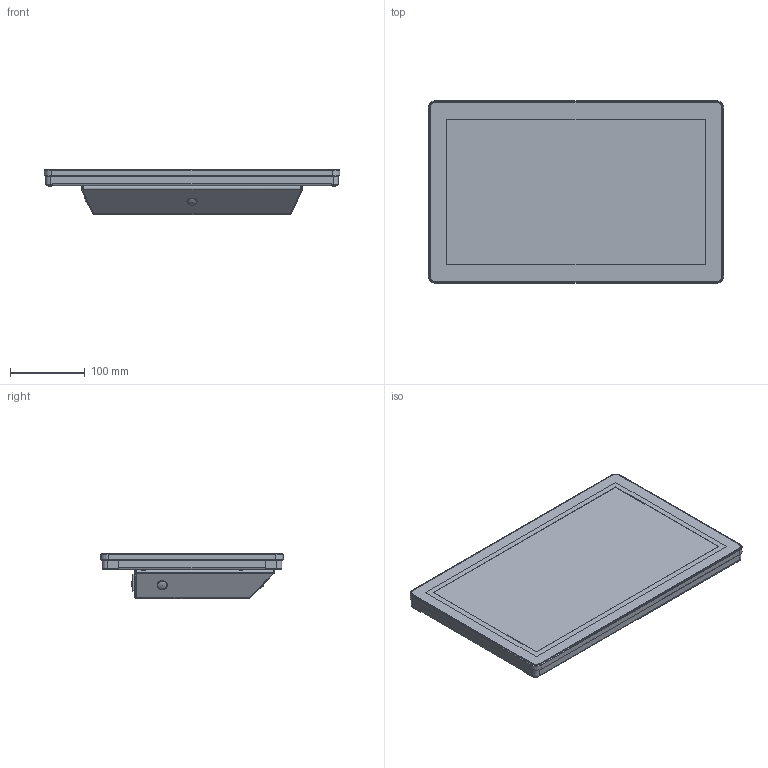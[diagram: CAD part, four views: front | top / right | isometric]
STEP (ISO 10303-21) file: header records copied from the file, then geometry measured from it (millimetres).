
FILE_DESCRIPTION (( 'STEP AP203' ), '1' );
FILE_NAME ('V156S-MON Assembly.STEP', '2026-03-26T16:06:11', ( '' ), ( '' ), 'SwSTEP 2.0', 'SolidWorks 2025', '' );
FILE_SCHEMA (( 'CONFIG_CONTROL_DESIGN' ));
Length unit declared in the file: millimetre
Products named in the file (26): V-UNI-MON Connector panel; V156S-11 Montagestrip; FH4-M3-12 Inpersdraadeind; TEST BS-M4-8 RVS blinde inpersafstandsteun; V156S-10 Behuizing; S156S-10 Bezel; Celrubber 2x6^V156S-00 Assembly; V-UNIS-10 Backcover; V-UNIS-01 Backcover assembly_MON; Part3^V156S-00 Assembly; V156S-MON Assembly; C08-1525NPH; 220V IEC snap-in input socket 539-2017; Afdekkap 12mm; Meanwell IRM-90-12ST; V-UNI-12 Bevestigingsplaat; FH-M4-12-ZI Inpersdraadeind; V-serie - M3 x 4 - Z --- 3N_DIN 967 - M3 x 4 - Z --- 3N; SO-3,5M3-10-ZI Inpersafstandsteun; G156HCE-L01; SO-3,5M3-6-ZI Inpersafstandsteun; GPC-156 kleine border; CPCB membrame key pad
Assembly tree (49 placements, depth 4):
  V156S-MON Assembly
    V156S-10 Behuizing
    V156S-11 Montagestrip  x2
      V156S-11 Montagestrip
      SO-3,5M3-6-ZI Inpersafstandsteun
    GPC-156 kleine border
    S156S-10 Bezel
    G156HCE-L01
    V-UNIS-01 Backcover assembly_MON
      V-UNIS-10 Backcover
        V-UNIS-10 Backcover
        TEST BS-M4-8 RVS blinde inpersafstandsteun  x4
        FH-M4-12-ZI Inpersdraadeind  x8
        FH4-M3-12 Inpersdraadeind  x4
      V-UNI-12 Bevestigingsplaat
        V-UNI-12 Bevestigingsplaat
        SO-3,5M3-10-ZI Inpersafstandsteun  x6
      V-UNI-MON Connector panel
      CPCB membrame key pad
      Meanwell IRM-90-12ST
      220V IEC snap-in input socket 539-2017
      C08-1525NPH
      Afdekkap 12mm
    Celrubber 2x6^V156S-00 Assembly
    Afdekkap 12mm
    V-serie - M3 x 4 - Z --- 3N_DIN 967 - M3 x 4 - Z --- 3N  x4
    Part3^V156S-00 Assembly
Bounding box: 395 x 244 x 60.35 mm (x, y, z)
Volume: 1494401.6 mm3; surface area: 900789.1 mm2
Topology: 49 solids, 607 shells, 4414 faces, 14482 edges, 10541 vertices
Faces by surface type: plane 3172, cylinder 906, bspline 235, cone 60, torus 37, sphere 4
Full cylindrical faces by diameter (mm): 0.1 x1, 0.2 x1, 0.8 x16, 1 x3, 1.2 x1, 1.27 x15, 1.8 x3, 2 x1, 2.5 x24, 3 x14, 3.05 x4, 3.15 x7, 3.5 x39, 4 x12, 4.1 x8, 4.6 x4, 5.4 x10, 5.49 x10, 5.5 x4, 5.9 x8, 6.3 x1, 6.6 x2, 7.1 x4, 7.22 x4, 8 x3, 11 x1, 12 x2, 13.5 x2, 13.9 x1
Entity records: 172240 total; most frequent: CARTESIAN_POINT 57608, ORIENTED_EDGE 21075, DIRECTION 20314, EDGE_CURVE 13511, VERTEX_POINT 10035, VECTOR 9406, LINE 9406, AXIS2_PLACEMENT_3D 5454
